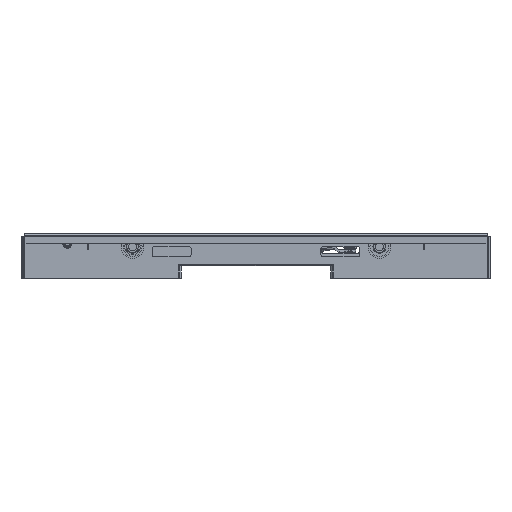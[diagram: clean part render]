
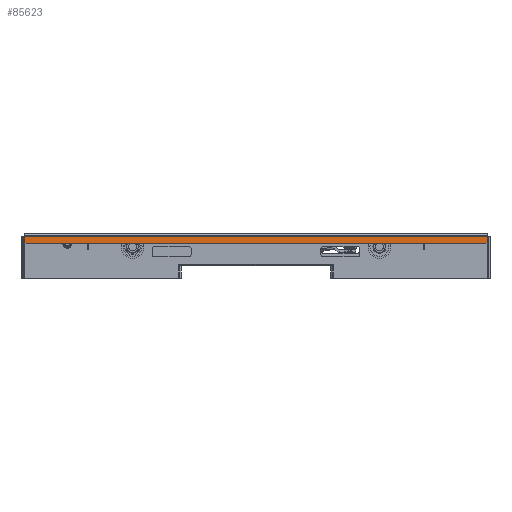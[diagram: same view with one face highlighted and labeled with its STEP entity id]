
A CAD part, front view. The second image highlights one B-rep face of the part: STEP entity #85623.
In plain terms, the highlighted planar face has unit normal (0, -1, 0).
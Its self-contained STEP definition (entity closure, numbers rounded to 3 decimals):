
#11 = VECTOR ( 'NONE', #62927, 1000. ) ;
#976 = PLANE ( 'NONE',  #4726 ) ;
#977 = CARTESIAN_POINT ( 'NONE',  ( -360.25, -1069.5, 34.25 ) ) ;
#978 = DIRECTION ( 'NONE',  ( 0., 1., 0. ) ) ;
#979 = DIRECTION ( 'NONE',  ( 0., 0., -1. ) ) ;
#4714 = FACE_OUTER_BOUND ( 'NONE', #148056, .T. ) ;
#4726 = AXIS2_PLACEMENT_3D ( 'NONE', #977, #978, #979 ) ;
#15655 = EDGE_CURVE ( 'NONE', #52958, #52963, #21851, .T. ) ;
#15685 = EDGE_CURVE ( 'NONE', #53000, #52958, #21941, .T. ) ;
#17602 = EDGE_CURVE ( 'NONE', #53000, #52978, #62849, .T. ) ;
#17624 = EDGE_CURVE ( 'NONE', #53033, #53040, #62924, .T. ) ;
#17805 = EDGE_CURVE ( 'NONE', #52978, #53040, #63664, .T. ) ;
#17820 = EDGE_CURVE ( 'NONE', #52963, #53033, #63702, .T. ) ;
#21851 = LINE ( 'NONE', #21852, #44804 ) ;
#21852 = CARTESIAN_POINT ( 'NONE',  ( -360.25, -1069.5, 19.25 ) ) ;
#21853 = DIRECTION ( 'NONE',  ( 1., 0., 0. ) ) ;
#21941 = LINE ( 'NONE', #21942, #44765 ) ;
#21942 = CARTESIAN_POINT ( 'NONE',  ( -353.75, -1069.5, 19.25 ) ) ;
#21943 = DIRECTION ( 'NONE',  ( 0.707, 0., -0.707 ) ) ;
#42648 = VECTOR ( 'NONE', #62853, 1000. ) ;
#44765 = VECTOR ( 'NONE', #21943, 1000. ) ;
#44804 = VECTOR ( 'NONE', #21853, 1000. ) ;
#52958 = VERTEX_POINT ( 'NONE', #111121 ) ;
#52963 = VERTEX_POINT ( 'NONE', #111125 ) ;
#52978 = VERTEX_POINT ( 'NONE', #111130 ) ;
#53000 = VERTEX_POINT ( 'NONE', #111139 ) ;
#53033 = VERTEX_POINT ( 'NONE', #111153 ) ;
#53040 = VERTEX_POINT ( 'NONE', #111155 ) ;
#62849 = LINE ( 'NONE', #62851, #42648 ) ;
#62851 = CARTESIAN_POINT ( 'NONE',  ( -356.75, -1069.5, -34.251 ) ) ;
#62853 = DIRECTION ( 'NONE',  ( 0., 0., 1. ) ) ;
#62924 = LINE ( 'NONE', #62925, #11 ) ;
#62925 = CARTESIAN_POINT ( 'NONE',  ( 356.75, -1069.5, -34.251 ) ) ;
#62927 = DIRECTION ( 'NONE',  ( 0., 0., 1. ) ) ;
#63664 = LINE ( 'NONE', #63666, #70615 ) ;
#63666 = CARTESIAN_POINT ( 'NONE',  ( -360.25, -1069.5, 30.75 ) ) ;
#63668 = DIRECTION ( 'NONE',  ( 1., 0., 0. ) ) ;
#63702 = LINE ( 'NONE', #63703, #70624 ) ;
#63703 = CARTESIAN_POINT ( 'NONE',  ( 353.75, -1069.5, 19.25 ) ) ;
#63705 = DIRECTION ( 'NONE',  ( 0.707, 0., 0.707 ) ) ;
#70615 = VECTOR ( 'NONE', #63668, 1000. ) ;
#70624 = VECTOR ( 'NONE', #63705, 1000. ) ;
#85623 = ADVANCED_FACE ( 'NONE', ( #4714 ), #976, .F. ) ;
#111121 = CARTESIAN_POINT ( 'NONE',  ( -353.75, -1069.5, 19.25 ) ) ;
#111125 = CARTESIAN_POINT ( 'NONE',  ( 353.75, -1069.5, 19.25 ) ) ;
#111130 = CARTESIAN_POINT ( 'NONE',  ( -356.75, -1069.5, 30.75 ) ) ;
#111139 = CARTESIAN_POINT ( 'NONE',  ( -356.75, -1069.5, 22.25 ) ) ;
#111153 = CARTESIAN_POINT ( 'NONE',  ( 356.75, -1069.5, 22.25 ) ) ;
#111155 = CARTESIAN_POINT ( 'NONE',  ( 356.75, -1069.5, 30.75 ) ) ;
#121824 = ORIENTED_EDGE ( 'NONE', *, *, #17805, .F. ) ;
#121825 = ORIENTED_EDGE ( 'NONE', *, *, #17624, .T. ) ;
#121826 = ORIENTED_EDGE ( 'NONE', *, *, #17820, .T. ) ;
#121827 = ORIENTED_EDGE ( 'NONE', *, *, #15685, .T. ) ;
#121828 = ORIENTED_EDGE ( 'NONE', *, *, #17602, .F. ) ;
#121829 = ORIENTED_EDGE ( 'NONE', *, *, #15655, .T. ) ;
#148056 = EDGE_LOOP ( 'NONE', ( #121828, #121827, #121829, #121826, #121825, #121824 ) ) ;
